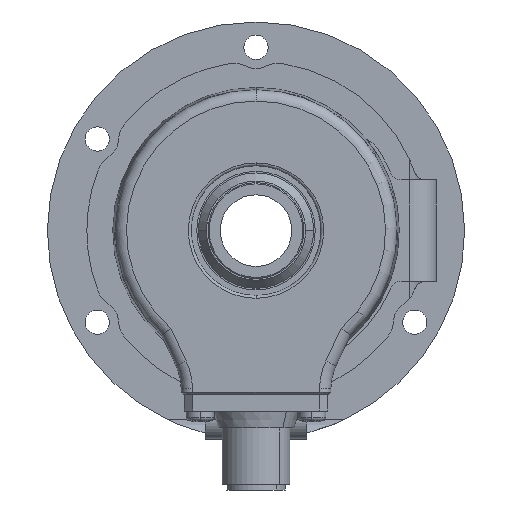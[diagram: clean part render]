
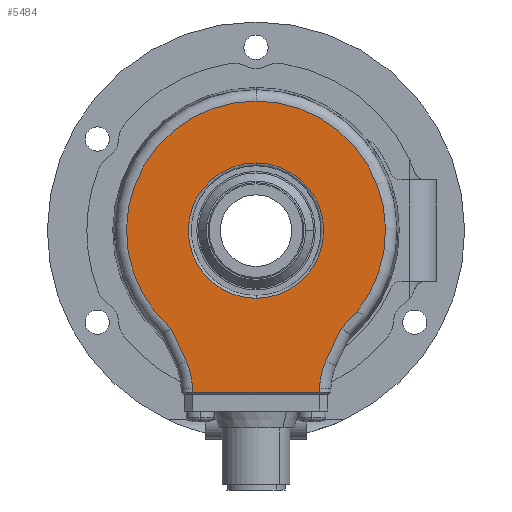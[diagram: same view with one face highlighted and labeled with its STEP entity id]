
A CAD part, left-side view. The second image highlights one B-rep face of the part: STEP entity #5484.
In plain terms, the highlighted planar face has unit normal (-1, 0, 0).
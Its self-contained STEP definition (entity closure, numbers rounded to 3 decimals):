
#117 = DIRECTION ( 'NONE',  ( 0., 0., 1. ) ) ;
#245 = VERTEX_POINT ( 'NONE', #22336 ) ;
#426 = CARTESIAN_POINT ( 'NONE',  ( -21., 11.268, -27.974 ) ) ;
#672 = PLANE ( 'NONE',  #5489 ) ;
#1130 = CARTESIAN_POINT ( 'NONE',  ( -21., -15.091, -17.32 ) ) ;
#1244 = EDGE_CURVE ( 'NONE', #245, #17481, #4903, .T. ) ;
#1245 = EDGE_CURVE ( 'NONE', #17713, #6831, #14985, .T. ) ;
#1276 = DIRECTION ( 'NONE',  ( 0., 0., 1. ) ) ;
#1442 = EDGE_CURVE ( 'NONE', #17481, #3914, #16535, .T. ) ;
#1495 = ORIENTED_EDGE ( 'NONE', *, *, #6691, .T. ) ;
#1530 = AXIS2_PLACEMENT_3D ( 'NONE', #16937, #4885, #18947 ) ;
#1619 = VERTEX_POINT ( 'NONE', #12782 ) ;
#1703 = VERTEX_POINT ( 'NONE', #25261 ) ;
#2053 = LINE ( 'NONE', #15382, #7352 ) ;
#2807 = AXIS2_PLACEMENT_3D ( 'NONE', #4832, #18894, #6846 ) ;
#3058 = ORIENTED_EDGE ( 'NONE', *, *, #3546, .T. ) ;
#3240 = ORIENTED_EDGE ( 'NONE', *, *, #1442, .T. ) ;
#3439 = LINE ( 'NONE', #5329, #8124 ) ;
#3546 = EDGE_CURVE ( 'NONE', #1703, #11056, #2053, .T. ) ;
#3914 = VERTEX_POINT ( 'NONE', #1130 ) ;
#4285 = CARTESIAN_POINT ( 'NONE',  ( -21., -12.39, -23.112 ) ) ;
#4385 = DIRECTION ( 'NONE',  ( 0., -0.017, 1. ) ) ;
#4573 = ORIENTED_EDGE ( 'NONE', *, *, #1244, .T. ) ;
#4630 = CARTESIAN_POINT ( 'NONE',  ( -21., 0., 22.972 ) ) ;
#4832 = CARTESIAN_POINT ( 'NONE',  ( -21., -23.266, -28.183 ) ) ;
#4885 = DIRECTION ( 'NONE',  ( -1., 0., 0. ) ) ;
#4903 = CIRCLE ( 'NONE', #2807, 12. ) ;
#4942 = EDGE_CURVE ( 'NONE', #3914, #23103, #25203, .T. ) ;
#5329 = CARTESIAN_POINT ( 'NONE',  ( -21., 11.752, -0.205 ) ) ;
#5484 = ADVANCED_FACE ( 'NONE', ( #15146, #20469 ), #672, .F. ) ;
#5489 = AXIS2_PLACEMENT_3D ( 'NONE', #8733, #22797, #10742 ) ;
#5829 = CIRCLE ( 'NONE', #12392, 12. ) ;
#6691 = EDGE_CURVE ( 'NONE', #20128, #1619, #5829, .T. ) ;
#6831 = VERTEX_POINT ( 'NONE', #13347 ) ;
#6846 = DIRECTION ( 'NONE',  ( 0., 0., 1. ) ) ;
#7314 = EDGE_CURVE ( 'NONE', #23103, #1703, #14353, .T. ) ;
#7352 = VECTOR ( 'NONE', #17408, 1000. ) ;
#7745 = EDGE_CURVE ( 'NONE', #11056, #25115, #21549, .T. ) ;
#8124 = VECTOR ( 'NONE', #13422, 1000. ) ;
#8310 = EDGE_CURVE ( 'NONE', #1619, #20128, #24968, .T. ) ;
#8501 = ORIENTED_EDGE ( 'NONE', *, *, #7314, .T. ) ;
#8733 = CARTESIAN_POINT ( 'NONE',  ( -21., 0., 0. ) ) ;
#8792 = EDGE_LOOP ( 'NONE', ( #18295, #22882, #12572, #4573, #3240, #21489, #8501, #3058, #18781 ) ) ;
#8955 = CARTESIAN_POINT ( 'NONE',  ( -21., 0., 0. ) ) ;
#9369 = DIRECTION ( 'NONE',  ( 1., 0., 0. ) ) ;
#9906 = CARTESIAN_POINT ( 'NONE',  ( -21., 12.39, -23.112 ) ) ;
#10742 = DIRECTION ( 'NONE',  ( 0., 0., 1. ) ) ;
#10893 = VECTOR ( 'NONE', #19777, 1000. ) ;
#10974 = DIRECTION ( 'NONE',  ( 0., 0., 1. ) ) ;
#11056 = VERTEX_POINT ( 'NONE', #9906 ) ;
#12117 = DIRECTION ( 'NONE',  ( -1., 0., 0. ) ) ;
#12392 = AXIS2_PLACEMENT_3D ( 'NONE', #8955, #23015, #10974 ) ;
#12572 = ORIENTED_EDGE ( 'NONE', *, *, #23058, .T. ) ;
#12782 = CARTESIAN_POINT ( 'NONE',  ( -21., 0., 12. ) ) ;
#13273 = DIRECTION ( 'NONE',  ( 1., 0., 0. ) ) ;
#13347 = CARTESIAN_POINT ( 'NONE',  ( -21., -11.255, -28.695 ) ) ;
#13422 = DIRECTION ( 'NONE',  ( 0., -0.017, -1. ) ) ;
#13647 = EDGE_CURVE ( 'NONE', #25115, #17713, #3439, .T. ) ;
#14353 = CIRCLE ( 'NONE', #1530, 22.972 ) ;
#14870 = DIRECTION ( 'NONE',  ( 0., -1., 0. ) ) ;
#14985 = LINE ( 'NONE', #16882, #25014 ) ;
#15146 = FACE_BOUND ( 'NONE', #21684, .T. ) ;
#15382 = CARTESIAN_POINT ( 'NONE',  ( -21., 12.39, -23.112 ) ) ;
#15672 = AXIS2_PLACEMENT_3D ( 'NONE', #21415, #9369, #23429 ) ;
#15700 = CARTESIAN_POINT ( 'NONE',  ( -21., 11.255, -28.695 ) ) ;
#16535 = LINE ( 'NONE', #17751, #10893 ) ;
#16882 = CARTESIAN_POINT ( 'NONE',  ( -21., -11.25, -28.695 ) ) ;
#16937 = CARTESIAN_POINT ( 'NONE',  ( -21., 0., 0. ) ) ;
#17408 = DIRECTION ( 'NONE',  ( 0., -0.423, -0.906 ) ) ;
#17481 = VERTEX_POINT ( 'NONE', #4285 ) ;
#17713 = VERTEX_POINT ( 'NONE', #15700 ) ;
#17751 = CARTESIAN_POINT ( 'NONE',  ( -21., -14.953, -17.615 ) ) ;
#18295 = ORIENTED_EDGE ( 'NONE', *, *, #13647, .T. ) ;
#18430 = CARTESIAN_POINT ( 'NONE',  ( -21., -11.752, -0.205 ) ) ;
#18496 = AXIS2_PLACEMENT_3D ( 'NONE', #25295, #13273, #1276 ) ;
#18781 = ORIENTED_EDGE ( 'NONE', *, *, #7745, .T. ) ;
#18894 = DIRECTION ( 'NONE',  ( 1., 0., 0. ) ) ;
#18947 = DIRECTION ( 'NONE',  ( 0., 0., 1. ) ) ;
#19138 = CARTESIAN_POINT ( 'NONE',  ( -21., 0., -12. ) ) ;
#19777 = DIRECTION ( 'NONE',  ( 0., -0.423, 0.906 ) ) ;
#20128 = VERTEX_POINT ( 'NONE', #19138 ) ;
#20466 = AXIS2_PLACEMENT_3D ( 'NONE', #24164, #12117, #117 ) ;
#20469 = FACE_OUTER_BOUND ( 'NONE', #8792, .T. ) ;
#21415 = CARTESIAN_POINT ( 'NONE',  ( -21., 0., 0. ) ) ;
#21489 = ORIENTED_EDGE ( 'NONE', *, *, #4942, .T. ) ;
#21549 = CIRCLE ( 'NONE', #18496, 12. ) ;
#21684 = EDGE_LOOP ( 'NONE', ( #23141, #1495 ) ) ;
#22336 = CARTESIAN_POINT ( 'NONE',  ( -21., -11.268, -27.974 ) ) ;
#22797 = DIRECTION ( 'NONE',  ( 1., 0., 0. ) ) ;
#22882 = ORIENTED_EDGE ( 'NONE', *, *, #1245, .T. ) ;
#23015 = DIRECTION ( 'NONE',  ( 1., 0., 0. ) ) ;
#23058 = EDGE_CURVE ( 'NONE', #6831, #245, #24575, .T. ) ;
#23103 = VERTEX_POINT ( 'NONE', #4630 ) ;
#23141 = ORIENTED_EDGE ( 'NONE', *, *, #8310, .T. ) ;
#23317 = VECTOR ( 'NONE', #4385, 1000. ) ;
#23429 = DIRECTION ( 'NONE',  ( 0., 0., 1. ) ) ;
#24164 = CARTESIAN_POINT ( 'NONE',  ( -21., 0., 0. ) ) ;
#24575 = LINE ( 'NONE', #18430, #23317 ) ;
#24968 = CIRCLE ( 'NONE', #15672, 12. ) ;
#25014 = VECTOR ( 'NONE', #14870, 1000. ) ;
#25115 = VERTEX_POINT ( 'NONE', #426 ) ;
#25203 = CIRCLE ( 'NONE', #20466, 22.972 ) ;
#25261 = CARTESIAN_POINT ( 'NONE',  ( -21., 15.091, -17.32 ) ) ;
#25295 = CARTESIAN_POINT ( 'NONE',  ( -21., 23.266, -28.183 ) ) ;
